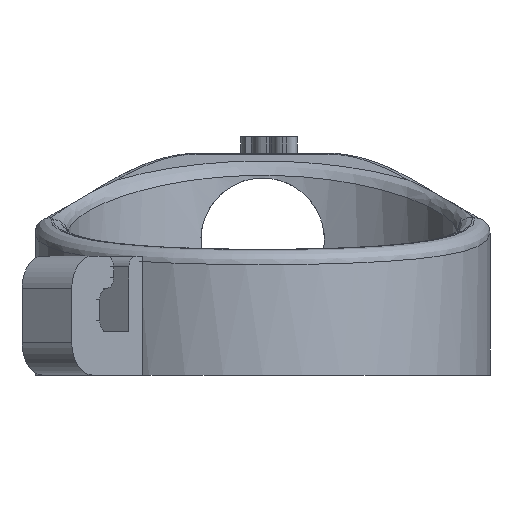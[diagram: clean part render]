
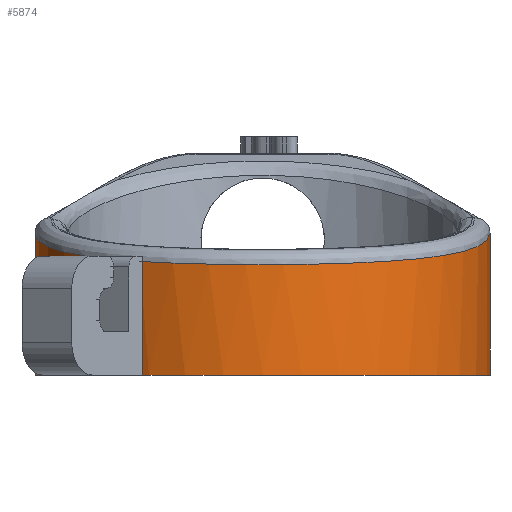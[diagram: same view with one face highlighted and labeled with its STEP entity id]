
A CAD part, front view. The second image highlights one B-rep face of the part: STEP entity #5874.
In plain terms, the highlighted cylindrical face has radius 21 mm (diameter 42 mm), a partial arc.
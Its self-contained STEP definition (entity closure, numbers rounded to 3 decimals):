
#6 = ORIENTED_EDGE ( 'NONE', *, *, #4564, .T. ) ;
#19 = CARTESIAN_POINT ( 'NONE',  ( -15.85, -13.793, 10.913 ) ) ;
#54 = LINE ( 'NONE', #1745, #6738 ) ;
#372 = CARTESIAN_POINT ( 'NONE',  ( 21., -0.682, 12.939 ) ) ;
#436 = CARTESIAN_POINT ( 'NONE',  ( 18.869, -9.224, 11.509 ) ) ;
#494 = CARTESIAN_POINT ( 'NONE',  ( 16.747, -12.744, 11.037 ) ) ;
#531 = CARTESIAN_POINT ( 'NONE',  ( -21., 0., 4.5 ) ) ;
#704 = CARTESIAN_POINT ( 'NONE',  ( -17.122, -12.178, 11.11 ) ) ;
#873 = CARTESIAN_POINT ( 'NONE',  ( -8.71, -19.121, 10.364 ) ) ;
#1279 = CARTESIAN_POINT ( 'NONE',  ( 19.299, -8.286, 11.646 ) ) ;
#1371 = VECTOR ( 'NONE', #4855, 1000. ) ;
#1542 = CARTESIAN_POINT ( 'NONE',  ( -10.561, -18.164, 10.451 ) ) ;
#1599 = CARTESIAN_POINT ( 'NONE',  ( -20.833, -2.728, 12.558 ) ) ;
#1710 = CARTESIAN_POINT ( 'NONE',  ( 9.352, -18.816, 10.391 ) ) ;
#1745 = CARTESIAN_POINT ( 'NONE',  ( 21., 0., 4.5 ) ) ;
#1768 = DIRECTION ( 'NONE',  ( 0., 0., 1. ) ) ;
#1867 = CYLINDRICAL_SURFACE ( 'NONE', #8447, 21. ) ;
#1901 = ORIENTED_EDGE ( 'NONE', *, *, #9275, .T. ) ;
#1916 = DIRECTION ( 'NONE',  ( 0., 0., -1. ) ) ;
#2016 = AXIS2_PLACEMENT_3D ( 'NONE', #6037, #1768, #5928 ) ;
#2331 = VERTEX_POINT ( 'NONE', #7640 ) ;
#2389 = CARTESIAN_POINT ( 'NONE',  ( -13.92, -15.785, 10.688 ) ) ;
#2443 = CARTESIAN_POINT ( 'NONE',  ( 1.391, -20.965, 10.21 ) ) ;
#2499 = CARTESIAN_POINT ( 'NONE',  ( 11.156, -17.805, 10.485 ) ) ;
#2554 = CARTESIAN_POINT ( 'NONE',  ( 2.778, -20.827, 10.221 ) ) ;
#2795 = CARTESIAN_POINT ( 'NONE',  ( 21., 0., 0. ) ) ;
#3073 = CARTESIAN_POINT ( 'NONE',  ( 14.412, -15.278, 10.745 ) ) ;
#3229 = CARTESIAN_POINT ( 'NONE',  ( -4.774, -20.462, 10.251 ) ) ;
#3288 = CARTESIAN_POINT ( 'NONE',  ( -16.717, -12.729, 11.041 ) ) ;
#3346 = CARTESIAN_POINT ( 'NONE',  ( -21., -0.682, 12.939 ) ) ;
#3454 = CARTESIAN_POINT ( 'NONE',  ( -18.228, -10.451, 11.337 ) ) ;
#3606 = FACE_OUTER_BOUND ( 'NONE', #4724, .T. ) ;
#3807 = CARTESIAN_POINT ( 'NONE',  ( 20.967, -1.364, 12.81 ) ) ;
#3868 = CARTESIAN_POINT ( 'NONE',  ( 18.714, -9.534, 11.465 ) ) ;
#3922 = CARTESIAN_POINT ( 'NONE',  ( 15.883, -13.807, 10.909 ) ) ;
#4079 = CARTESIAN_POINT ( 'NONE',  ( -19.947, -6.707, 11.884 ) ) ;
#4130 = CARTESIAN_POINT ( 'NONE',  ( 3.462, -20.724, 10.229 ) ) ;
#4189 = CARTESIAN_POINT ( 'NONE',  ( 6.803, -19.916, 10.295 ) ) ;
#4564 = EDGE_CURVE ( 'NONE', #7307, #2331, #4899, .T. ) ;
#4724 = EDGE_LOOP ( 'NONE', ( #5188, #6, #1901, #9450 ) ) ;
#4855 = DIRECTION ( 'NONE',  ( 0., 0., -1. ) ) ;
#4899 = B_SPLINE_CURVE_WITH_KNOTS ( 'NONE', 3,
 ( #8053, #372, #3807, #7218, #10635, #7378, #8951, #1279, #8113, #436, #3868, #7274, #10690, #494, #3922, #10742, #3073, #6488, #9904, #5665, #10897, #2499, #7534, #1710, #6696, #4189, #5925, #4130, #2554, #2443, #6640, #10119, #5815, #3229, #5982, #9218, #10062, #873, #5870, #1542, #8376, #7482, #2389, #4976, #19, #3288, #704, #8489, #3454, #10229, #9391, #4079, #9277, #10949, #1599, #6753, #3346, #6871 ),
 .UNSPECIFIED., .F., .F.,
 ( 4, 2, 2, 2, 2, 2, 2, 2, 2, 2, 2, 2, 2, 2, 2, 2, 2, 2, 2, 2, 2, 2, 2, 2, 2, 2, 2, 2, 4 ),
 ( 0.001, 0.003, 0.005, 0.009, 0.01, 0.011, 0.013, 0.018, 0.019, 0.02, 0.022, 0.024, 0.026, 0.03, 0.032, 0.034, 0.038, 0.04, 0.043, 0.045, 0.047, 0.051, 0.053, 0.055, 0.057, 0.059, 0.063, 0.065, 0.068 ),
 .UNSPECIFIED. ) ;
#4976 = CARTESIAN_POINT ( 'NONE',  ( -15.387, -14.308, 10.853 ) ) ;
#5012 = CARTESIAN_POINT ( 'NONE',  ( 21., 0., 13.073 ) ) ;
#5188 = ORIENTED_EDGE ( 'NONE', *, *, #6477, .F. ) ;
#5535 = EDGE_CURVE ( 'NONE', #7751, #9128, #6836, .T. ) ;
#5665 = CARTESIAN_POINT ( 'NONE',  ( 12.845, -16.628, 10.602 ) ) ;
#5815 = CARTESIAN_POINT ( 'NONE',  ( -2.735, -20.867, 10.218 ) ) ;
#5870 = CARTESIAN_POINT ( 'NONE',  ( -9.341, -18.821, 10.391 ) ) ;
#5874 = ADVANCED_FACE ( 'NONE', ( #3606 ), #1867, .T. ) ;
#5925 = CARTESIAN_POINT ( 'NONE',  ( 5.488, -20.317, 10.262 ) ) ;
#5928 = DIRECTION ( 'NONE',  ( 1., 0., 0. ) ) ;
#5982 = CARTESIAN_POINT ( 'NONE',  ( -5.452, -20.292, 10.264 ) ) ;
#6037 = CARTESIAN_POINT ( 'NONE',  ( 0., 0., 0. ) ) ;
#6299 = DIRECTION ( 'NONE',  ( 0., 0., -1. ) ) ;
#6477 = EDGE_CURVE ( 'NONE', #7307, #9128, #54, .T. ) ;
#6488 = CARTESIAN_POINT ( 'NONE',  ( 13.901, -15.744, 10.694 ) ) ;
#6640 = CARTESIAN_POINT ( 'NONE',  ( 0.7, -21., 10.208 ) ) ;
#6696 = CARTESIAN_POINT ( 'NONE',  ( 8.72, -19.116, 10.365 ) ) ;
#6738 = VECTOR ( 'NONE', #1916, 1000. ) ;
#6753 = CARTESIAN_POINT ( 'NONE',  ( -20.967, -1.365, 12.81 ) ) ;
#6836 = CIRCLE ( 'NONE', #2016, 21. ) ;
#6871 = CARTESIAN_POINT ( 'NONE',  ( -21., 0., 13.073 ) ) ;
#7020 = DIRECTION ( 'NONE',  ( -1., 0., 0. ) ) ;
#7078 = CARTESIAN_POINT ( 'NONE',  ( 0., 0., 4.5 ) ) ;
#7148 = LINE ( 'NONE', #531, #1371 ) ;
#7218 = CARTESIAN_POINT ( 'NONE',  ( 20.833, -2.727, 12.559 ) ) ;
#7274 = CARTESIAN_POINT ( 'NONE',  ( 18.23, -10.446, 11.338 ) ) ;
#7307 = VERTEX_POINT ( 'NONE', #5012 ) ;
#7378 = CARTESIAN_POINT ( 'NONE',  ( 20.338, -5.405, 12.093 ) ) ;
#7482 = CARTESIAN_POINT ( 'NONE',  ( -12.86, -16.658, 10.597 ) ) ;
#7534 = CARTESIAN_POINT ( 'NONE',  ( 10.568, -18.16, 10.452 ) ) ;
#7640 = CARTESIAN_POINT ( 'NONE',  ( -21., 0., 13.073 ) ) ;
#7751 = VERTEX_POINT ( 'NONE', #9691 ) ;
#8053 = CARTESIAN_POINT ( 'NONE',  ( 21., 0., 13.073 ) ) ;
#8113 = CARTESIAN_POINT ( 'NONE',  ( 19.161, -8.6, 11.6 ) ) ;
#8376 = CARTESIAN_POINT ( 'NONE',  ( -11.151, -17.808, 10.485 ) ) ;
#8447 = AXIS2_PLACEMENT_3D ( 'NONE', #7078, #6299, #7020 ) ;
#8489 = CARTESIAN_POINT ( 'NONE',  ( -17.878, -11.039, 11.258 ) ) ;
#8951 = CARTESIAN_POINT ( 'NONE',  ( 19.948, -6.705, 11.884 ) ) ;
#9128 = VERTEX_POINT ( 'NONE', #2795 ) ;
#9218 = CARTESIAN_POINT ( 'NONE',  ( -6.779, -19.888, 10.298 ) ) ;
#9275 = EDGE_CURVE ( 'NONE', #2331, #7751, #7148, .T. ) ;
#9277 = CARTESIAN_POINT ( 'NONE',  ( -20.338, -5.405, 12.093 ) ) ;
#9391 = CARTESIAN_POINT ( 'NONE',  ( -19.166, -8.609, 11.598 ) ) ;
#9450 = ORIENTED_EDGE ( 'NONE', *, *, #5535, .T. ) ;
#9691 = CARTESIAN_POINT ( 'NONE',  ( -21., 0., 0. ) ) ;
#9904 = CARTESIAN_POINT ( 'NONE',  ( 13.64, -15.97, 10.67 ) ) ;
#10062 = CARTESIAN_POINT ( 'NONE',  ( -7.43, -19.654, 10.318 ) ) ;
#10119 = CARTESIAN_POINT ( 'NONE',  ( -1.367, -21.001, 10.208 ) ) ;
#10229 = CARTESIAN_POINT ( 'NONE',  ( -18.872, -9.237, 11.507 ) ) ;
#10635 = CARTESIAN_POINT ( 'NONE',  ( 20.733, -3.405, 12.438 ) ) ;
#10690 = CARTESIAN_POINT ( 'NONE',  ( 17.88, -11.035, 11.259 ) ) ;
#10742 = CARTESIAN_POINT ( 'NONE',  ( 14.663, -15.037, 10.771 ) ) ;
#10897 = CARTESIAN_POINT ( 'NONE',  ( 12.295, -17.039, 10.56 ) ) ;
#10949 = CARTESIAN_POINT ( 'NONE',  ( -20.733, -3.404, 12.438 ) ) ;
